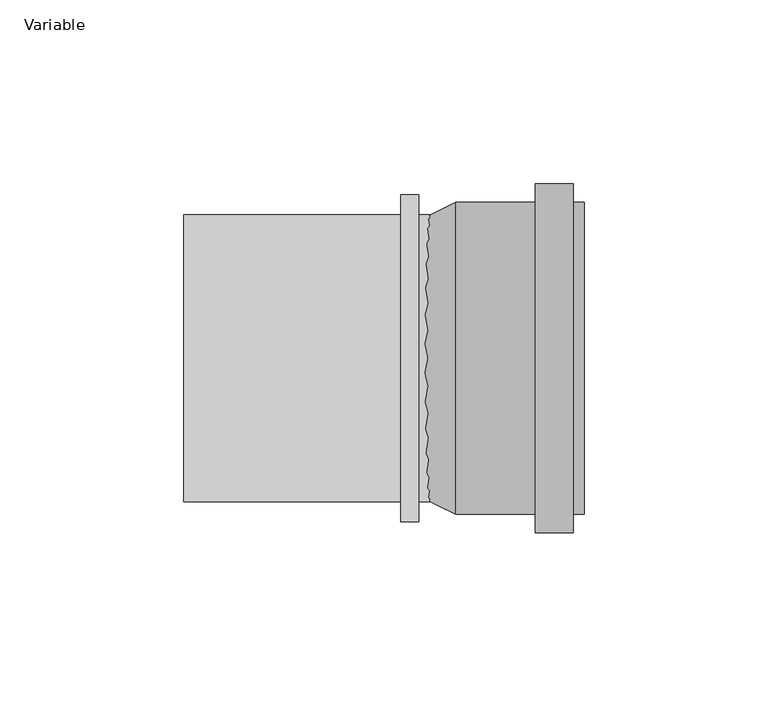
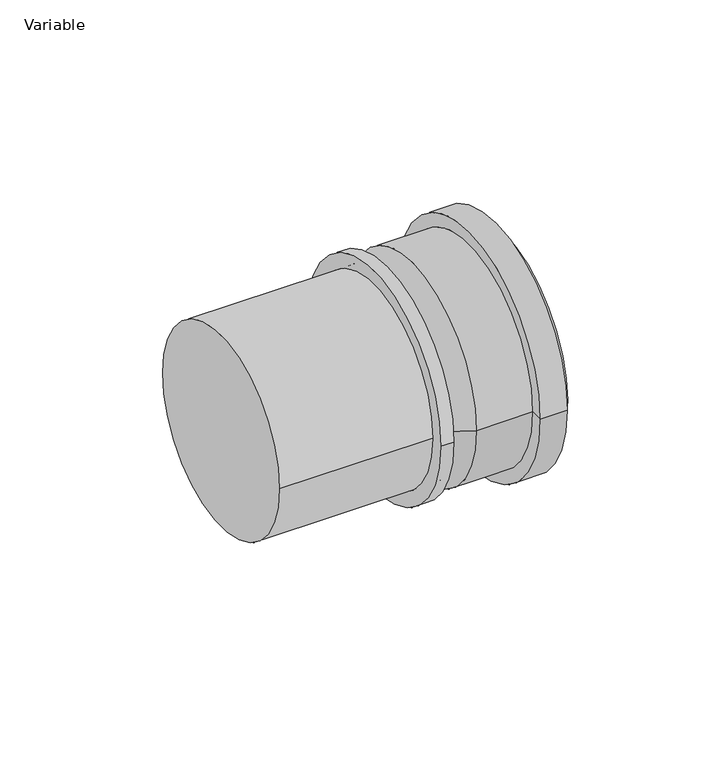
"""IFC4 building model written with IfcOpenShell, lengths in millimetres: pipe fitting geometry, AliaxisFR_Friaphon_AdaptorPVCFriaphon_FR : Variable."""

from ifc_helpers import new_model, si_unit, point, frame, origin, origin_2d, place, context, project, spatial, polyline, circle_curve, trimmed, segment, composite_curve, outline, extrude, source, transform, mapped, element, save
from ifc_brep_helpers import plane_surface, cylinder_surface, revolved_surface, advanced_brep


def variable_4ff2ce98(model_context):
    return source(origin(), model_context, "Body", "SolidModel", [
        advanced_brep(
        [(109.0, -42.5, 0.0), (109.0, 42.5, 0.0), (109.0, 37.5, 0.0), (109.0, -37.5, 0.0), (95.6666667, -47.5, 0.0), (95.6666667, 47.5, 0.0), (106.0, 47.5, 0.0), (106.0, -47.5, 0.0), (95.6666667, -42.5, 0.0), (95.6666667, 42.5, 0.0), (74.0, -42.5, 0.0), (74.0, 42.5, 0.0), (64.0, 37.5, 0.0), (64.0, -37.5, 0.0), (106.0, -42.5, 0.0), (106.0, 42.5, 0.0)],
        [
            (0, 1, circle_curve(frame((109.0, 0.0, 0.0), z_axis=(1.0, 0.0, 0.0), x_axis=(0.0, 1.0, 0.0)), 42.5)),
            (1, 2),
            (2, 3, circle_curve(frame((109.0, 0.0, 0.0), z_axis=(-1.0, 0.0, 0.0), x_axis=(0.0, 1.0, 0.0)), 37.5)),
            (3, 0),
            (1, 0, circle_curve(frame((109.0, 0.0, 0.0), z_axis=(1.0, 0.0, 0.0), x_axis=(0.0, 1.0, 0.0)), 42.5)),
            (3, 2, circle_curve(frame((109.0, 0.0, 0.0), z_axis=(-1.0, 0.0, 0.0), x_axis=(0.0, 1.0, 0.0)), 37.5)),
            (4, 5, circle_curve(frame((95.6666667, 0.0, 0.0), z_axis=(1.0, 0.0, 0.0), x_axis=(0.0, 1.0, 0.0)), 47.5)),
            (5, 6),
            (6, 7, circle_curve(frame((106.0, 0.0, 0.0), z_axis=(-1.0, 0.0, 0.0), x_axis=(0.0, 1.0, 0.0)), 47.5)),
            (7, 4),
            (5, 4, circle_curve(frame((95.6666667, 0.0, 0.0), z_axis=(1.0, 0.0, 0.0), x_axis=(0.0, 1.0, 0.0)), 47.5)),
            (7, 6, circle_curve(frame((106.0, 0.0, 0.0), z_axis=(-1.0, 0.0, 0.0), x_axis=(0.0, 1.0, 0.0)), 47.5)),
            (8, 9, circle_curve(frame((95.6666667, 0.0, 0.0), z_axis=(1.0, 0.0, 0.0), x_axis=(0.0, 1.0, 0.0)), 42.5)),
            (9, 5),
            (4, 8),
            (9, 8, circle_curve(frame((95.6666667, 0.0, 0.0), z_axis=(1.0, 0.0, 0.0), x_axis=(0.0, 1.0, 0.0)), 42.5)),
            (10, 11, circle_curve(frame((74.0, 0.0, 0.0), z_axis=(1.0, 0.0, 0.0), x_axis=(0.0, 1.0, 0.0)), 42.5)),
            (11, 9),
            (8, 10),
            (11, 10, circle_curve(frame((74.0, 0.0, 0.0), z_axis=(1.0, 0.0, 0.0), x_axis=(0.0, 1.0, 0.0)), 42.5)),
            (2, 12),
            (12, 13, circle_curve(frame((64.0, 0.0, 0.0), z_axis=(-1.0, 0.0, 0.0), x_axis=(0.0, 1.0, 0.0)), 37.5)),
            (13, 3),
            (13, 12, circle_curve(frame((64.0, 0.0, 0.0), z_axis=(-1.0, 0.0, 0.0), x_axis=(0.0, 1.0, 0.0)), 37.5)),
            (12, 11),
            (10, 13),
            (14, 15, circle_curve(frame((106.0, 0.0, 0.0), z_axis=(1.0, 0.0, 0.0), x_axis=(0.0, 1.0, 0.0)), 42.5)),
            (15, 1),
            (0, 14),
            (15, 14, circle_curve(frame((106.0, 0.0, 0.0), z_axis=(1.0, 0.0, 0.0), x_axis=(0.0, 1.0, 0.0)), 42.5)),
            (6, 15),
            (14, 7),
        ],
        [
            plane_surface(frame((109.0, 0.0, 0.0), z_axis=(1.0, 0.0, 0.0), x_axis=(0.0, 1.0, 0.0))),
            cylinder_surface(frame((64.0, 0.0, 0.0), z_axis=(-1.0, 0.0, 0.0), x_axis=(0.0, 1.0, 0.0)), 47.5),
            plane_surface(frame((95.6666667, 0.0, 0.0), z_axis=(-1.0, 0.0, 0.0), x_axis=(0.0, 1.0, 0.0))),
            cylinder_surface(frame((64.0, 0.0, 0.0), z_axis=(-1.0, 0.0, 0.0), x_axis=(0.0, 1.0, 0.0)), 42.5),
            revolved_surface(polyline([(64.0, 37.5, 0.0), (109.0, 37.5, 0.0)]), (64.0, 0.0, 0.0), (-1.0, 0.0, 0.0)),
            revolved_surface(polyline([(74.0, 42.5, 0.0), (64.0, 37.5, 0.0)]), (64.0, 0.0, 0.0), (-1.0, 0.0, 0.0)),
            plane_surface(frame((106.0, 0.0, 0.0), z_axis=(1.0, 0.0, 0.0), x_axis=(0.0, 1.0, 0.0))),
        ],
        [
            (0, [[1, 2, 3, 4]]),
            (0, [[5, -4, 6, -2]]),
            (1, [[7, 8, 9, 10]]),
            (1, [[11, -10, 12, -8]]),
            (2, [[13, 14, -7, 15]]),
            (2, [[16, -15, -11, -14]]),
            (3, [[17, 18, -13, 19]]),
            (3, [[20, -19, -16, -18]]),
            (4, [[-3, 21, 22, 23]]),
            (4, [[-6, -23, 24, -21]]),
            (5, [[-22, 25, -17, 26]]),
            (5, [[-24, -26, -20, -25]]),
            (3, [[27, 28, -1, 29]]),
            (3, [[30, -29, -5, -28]]),
            (6, [[-9, 31, -27, 32]]),
            (6, [[-12, -32, -30, -31]]),
        ],
    ),
        extrude(outline(composite_curve([segment(trimmed(circle_curve(origin_2d(), 44.5), [point((-44.5, 0.0))], [point((44.5, 0.0))], False, "CARTESIAN"), True, "CONTINUOUS"), segment(trimmed(circle_curve(origin_2d(), 44.5), [point((44.5, 0.0))], [point((-44.5, 0.0))], False, "CARTESIAN"), True, "CONTINUOUS")], self_intersect=False), holes=[composite_curve([segment(trimmed(circle_curve(origin_2d(), 39.0), [point((-39.0, 0.0))], [point((39.0, 0.0))], True, "CARTESIAN"), True, "CONTINUOUS"), segment(trimmed(circle_curve(origin_2d(), 39.0), [point((39.0, 0.0))], [point((-39.0, 0.0))], True, "CARTESIAN"), True, "CONTINUOUS")], self_intersect=False)]), frame((59.0, 0.0, 0.0), z_axis=(1.0, 0.0, 0.0), x_axis=(0.0, 1.0, 0.0)), (0.0, 0.0, 1.0), 5.0),
        extrude(outline(composite_curve([segment(trimmed(circle_curve(origin_2d(), 39.0), [point((-39.0, 0.0))], [point((39.0, 0.0))], False, "CARTESIAN"), True, "CONTINUOUS"), segment(trimmed(circle_curve(origin_2d(), 39.0), [point((39.0, 0.0))], [point((-39.0, 0.0))], False, "CARTESIAN"), True, "CONTINUOUS")], self_intersect=False)), frame((0.0, 0.0, 0.0), z_axis=(1.0, 0.0, 0.0), x_axis=(0.0, 1.0, 0.0)), (0.0, 0.0, 1.0), 69.0),
    ])


if __name__ == "__main__":
    model = new_model("IFC4")
    model_context = context("Model", 3, world=origin())
    ifc_project = project(units=[si_unit("LENGTHUNIT", "METRE", prefix="MILLI")], contexts=[model_context])
    site = spatial("IfcSite", under=ifc_project)
    building = spatial("IfcBuilding", under=site)
    placement = place(None, origin())
    variable_shape = variable_4ff2ce98(model_context)
    element("IfcPipeFitting", 1, ObjectType="AliaxisFR_Friaphon_AdaptorPVCFriaphon_FR : Variable", at=placement, inside=building, context=model_context, shape_type="MappedRepresentation", body=[
        mapped(variable_shape, transform((0.0, 0.0, 0.0), x_axis=(1.0, 0.0, 0.0), y_axis=(0.0, 1.0, 0.0), z_axis=(0.0, 0.0, 1.0))),
    ])
    save(model, "model.ifc")
